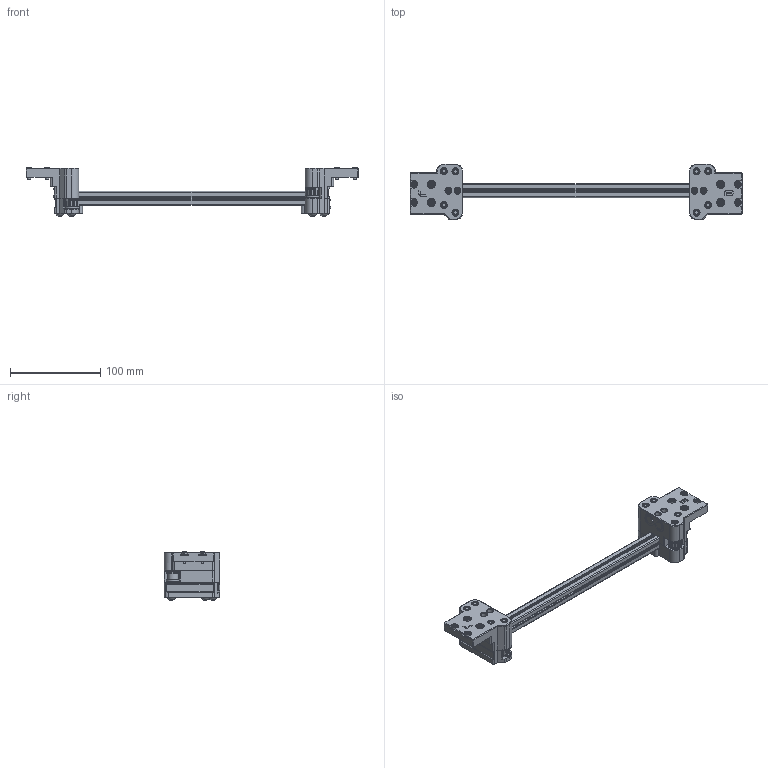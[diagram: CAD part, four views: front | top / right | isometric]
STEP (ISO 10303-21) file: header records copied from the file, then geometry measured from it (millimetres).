
FILE_DESCRIPTION(('FreeCAD Model'),'2;1');
FILE_NAME('Open CASCADE Shape Model','2021-10-21T00:04:21',('Author'),( ''),'Open CASCADE STEP processor 7.4','FreeCAD','Unknown');
FILE_SCHEMA(('AUTOMOTIVE_DESIGN { 1 0 10303 214 1 1 1 1 }'));
Length unit declared in the file: millimetre
Products named in the file (66): gantry-1515; Y-carrier-left; smooth-idler; 20t-idler; M3-Washer; M3-Washer004; M3-Washer005; M3x10-Screw; M3-Washer006; M3x10-Screw004; M3x10-Screw005; M3x10-Screw006; M5x50-Screw003; M5x50-Screw004; M5x50-Screw005; M5x50-Screw; Cut002001; Chamfer030007001; M3-Washer012; M3-Washer010; M3-Washer009; M3x10-Screw009; M3x10-Screw008; M3x10-Screw007; M3-Washer008; M3-Washer011; M3-Washer007; M3-Washer014; M3-Washer015; M3-Washer016; M3x12-Screw001; M3x12-Screw; M3-Washer013; Y-carrier-right; 20t-idler001; smooth-idler001; M5x50-Screw006; M5x50-Screw008; M5x50-Screw007; M5x50-Screw009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
Assembly tree (65 placements, depth 3):
  gantry-1515
    Y-carrier-left
      smooth-idler
      20t-idler
      M3-Washer
      M3-Washer004
      M3-Washer005
      M3x10-Screw
      M3-Washer006
      M3x10-Screw004
      M3x10-Screw005
      M3x10-Screw006
      M5x50-Screw003
      M5x50-Screw004
      M5x50-Screw005
      M5x50-Screw
      Cut002001
      Chamfer030007001
      M3-Washer012
      M3-Washer010
      M3-Washer009
      M3x10-Screw009
      M3x10-Screw008
      M3x10-Screw007
      M3-Washer008
      M3-Washer011
      M3-Washer007
      M3-Washer014
      M3-Washer015
      M3-Washer016
      M3x12-Screw001
      M3x12-Screw
      M3-Washer013
    Y-carrier-right
      20t-idler001
      smooth-idler001
      M5x50-Screw006
      M5x50-Screw008
      M5x50-Screw007
      M5x50-Screw009
      M3x10-Screw015
      M3x10-Screw003
      M3x10-Screw011
      M3x10-Screw013
      M3-Washer025
      M3-Washer027
      M3-Washer023
      M3-Washer022
      Chamfer010001
      Cut001001
      M3-Washer026
      M3x10-Screw010
      M3-Washer029
      M3x10-Screw012
      M3-Washer019
      M3-Washer030
      M3x10-Screw014
      M3-Washer018
      M3-Washer020
      M3-Washer028
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Bounding box: 367 x 61.74 x 53.3 mm (x, y, z)
Volume: 207042.1 mm3; surface area: 98097.3 mm2
Topology: 63 solids, 63 shells, 1901 faces, 4555 edges, 2868 vertices
Faces by surface type: plane 1318, cylinder 313, cone 182, revolution 44, sphere 34, extrusion 10
Full cylindrical faces by diameter (mm): 2.5 x1, 2.9 x2, 3 x18, 3.2 x44, 4 x4, 4.2 x4, 5 x20, 5.05 x16, 5.5 x18, 6 x28, 6.5 x18, 8 x12, 12 x2, 15 x8
Entity records: 117116 total; most frequent: CARTESIAN_POINT 25696, DIRECTION 16297, VECTOR 9271, LINE 9261, ORIENTED_EDGE 9058, PCURVE 9058, DEFINITIONAL_REPRESENTATION 9058, EDGE_CURVE 4529
